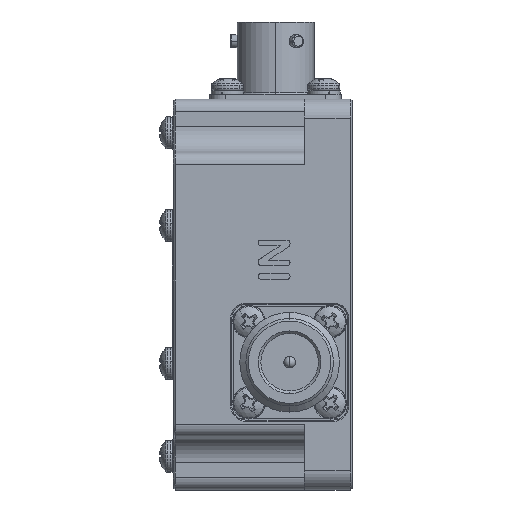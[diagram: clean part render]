
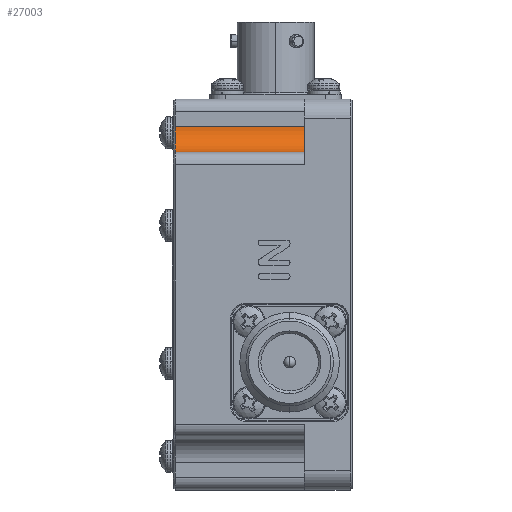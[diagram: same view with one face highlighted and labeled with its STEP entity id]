
A CAD part, left-side view. The second image highlights one B-rep face of the part: STEP entity #27003.
In plain terms, the highlighted free-form (B-spline) face has degree [1, 3] with [2, 4] control points.
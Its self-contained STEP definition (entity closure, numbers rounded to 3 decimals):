
#57 = ORIENTED_EDGE ( 'NONE', *, *, #271, .F. ) ;
#271 = EDGE_CURVE ( 'NONE', #358, #14373, #14494, .T. ) ;
#358 = VERTEX_POINT ( 'NONE', #10742 ) ;
#800 = CARTESIAN_POINT ( 'NONE',  ( 6.643, 27.7, -8.3 ) ) ;
#1884 = CARTESIAN_POINT ( 'NONE',  ( 4.3, 27.7, -4.3 ) ) ;
#1907 = ORIENTED_EDGE ( 'NONE', *, *, #27808, .T. ) ;
#2406 = EDGE_LOOP ( 'NONE', ( #30986, #57, #1907, #9428 ) ) ;
#2912 = CARTESIAN_POINT ( 'NONE',  ( 6.643, 7.5, -8.3 ) ) ;
#4333 = DIRECTION ( 'NONE',  ( 0., -1., 0. ) ) ;
#4437 = VECTOR ( 'NONE', #6710, 1000. ) ;
#6247 = LINE ( 'NONE', #21672, #29213 ) ;
#6710 = DIRECTION ( 'NONE',  ( 0., 1., 0. ) ) ;
#7138 = VERTEX_POINT ( 'NONE', #18019 ) ;
#7657 = EDGE_CURVE ( 'NONE', #7138, #14373, #12776, .T. ) ;
#8574 =( BOUNDED_SURFACE ( )  B_SPLINE_SURFACE ( 1, 3, ( 
 ( #27356, #2912, #32235, #21790 ),
 ( #13498, #800, #18847, #24074 ) ),
 .UNSPECIFIED., .F., .F., .F. ) 
 B_SPLINE_SURFACE_WITH_KNOTS ( ( 2, 2 ),
 ( 4, 4 ),
 ( 0., 1. ),
 ( 0., 1. ),
 .UNSPECIFIED. ) 
 GEOMETRIC_REPRESENTATION_ITEM ( )  RATIONAL_B_SPLINE_SURFACE ( (
 ( 1., 0.805, 0.805, 1.),
 ( 1., 0.805, 0.805, 1.) ) ) 
 REPRESENTATION_ITEM ( '' )  SURFACE ( )  );
#8960 = FACE_OUTER_BOUND ( 'NONE', #2406, .T. ) ;
#9428 = ORIENTED_EDGE ( 'NONE', *, *, #16184, .T. ) ;
#10494 = DIRECTION ( 'NONE',  ( 0., 0., -1. ) ) ;
#10742 = CARTESIAN_POINT ( 'NONE',  ( 4.3, 27.7, -8.3 ) ) ;
#11236 = CIRCLE ( 'NONE', #34005, 4. ) ;
#12776 = LINE ( 'NONE', #33976, #4437 ) ;
#13498 = CARTESIAN_POINT ( 'NONE',  ( 4.3, 27.7, -8.3 ) ) ;
#14373 = VERTEX_POINT ( 'NONE', #27694 ) ;
#14494 = CIRCLE ( 'NONE', #19476, 4. ) ;
#16184 = EDGE_CURVE ( 'NONE', #27778, #7138, #11236, .T. ) ;
#18019 = CARTESIAN_POINT ( 'NONE',  ( 8.3, 7.5, -4.3 ) ) ;
#18847 = CARTESIAN_POINT ( 'NONE',  ( 8.3, 27.7, -6.643 ) ) ;
#19476 = AXIS2_PLACEMENT_3D ( 'NONE', #1884, #4333, #25495 ) ;
#21496 = CARTESIAN_POINT ( 'NONE',  ( 4.3, 7.5, -8.3 ) ) ;
#21672 = CARTESIAN_POINT ( 'NONE',  ( 4.3, 27.7, -8.3 ) ) ;
#21790 = CARTESIAN_POINT ( 'NONE',  ( 8.3, 7.5, -4.3 ) ) ;
#23667 = CARTESIAN_POINT ( 'NONE',  ( 4.3, 7.5, -4.3 ) ) ;
#24074 = CARTESIAN_POINT ( 'NONE',  ( 8.3, 27.7, -4.3 ) ) ;
#24299 = DIRECTION ( 'NONE',  ( 0., -1., 0. ) ) ;
#25495 = DIRECTION ( 'NONE',  ( 0., 0., -1. ) ) ;
#27003 = ADVANCED_FACE ( 'NONE', ( #8960 ), #8574, .F. ) ;
#27356 = CARTESIAN_POINT ( 'NONE',  ( 4.3, 7.5, -8.3 ) ) ;
#27694 = CARTESIAN_POINT ( 'NONE',  ( 8.3, 27.7, -4.3 ) ) ;
#27778 = VERTEX_POINT ( 'NONE', #21496 ) ;
#27808 = EDGE_CURVE ( 'NONE', #358, #27778, #6247, .T. ) ;
#29213 = VECTOR ( 'NONE', #24299, 1000. ) ;
#30986 = ORIENTED_EDGE ( 'NONE', *, *, #7657, .T. ) ;
#32235 = CARTESIAN_POINT ( 'NONE',  ( 8.3, 7.5, -6.643 ) ) ;
#33976 = CARTESIAN_POINT ( 'NONE',  ( 8.3, 7.5, -4.3 ) ) ;
#34005 = AXIS2_PLACEMENT_3D ( 'NONE', #23667, #34283, #10494 ) ;
#34283 = DIRECTION ( 'NONE',  ( 0., -1., 0. ) ) ;
